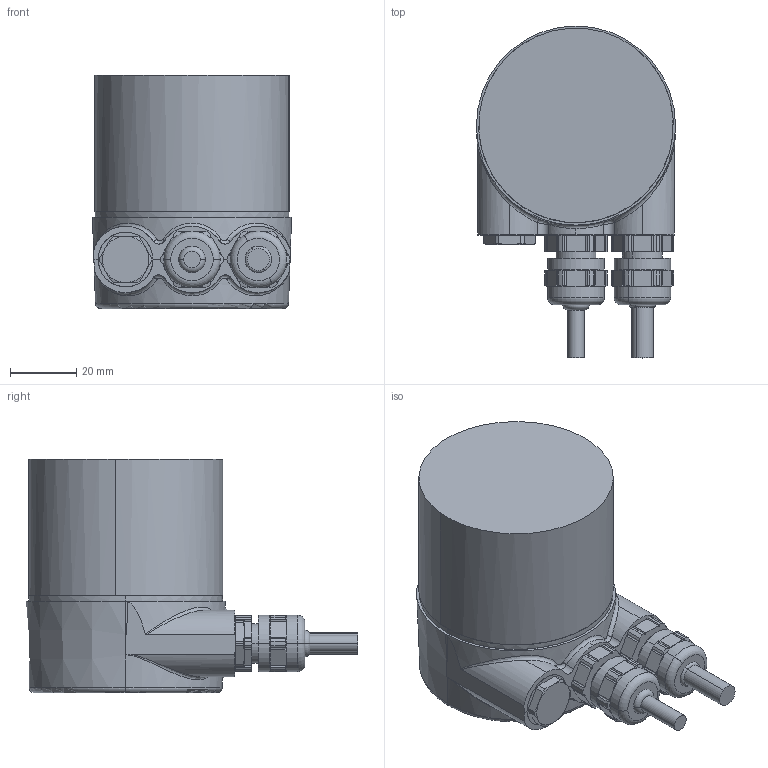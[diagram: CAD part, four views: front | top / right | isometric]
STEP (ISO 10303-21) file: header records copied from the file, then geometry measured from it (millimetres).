
FILE_DESCRIPTION (( 'STEP AP214' ), '1' );
FILE_NAME ('drawing-oc-5-ei-705-sws-eireir-y-cre-n.STEP', '2023-03-17T11:18:32', ( '' ), ( '' ), 'SwSTEP 2.0', 'SolidWorks 2022', '' );
FILE_SCHEMA (( 'AUTOMOTIVE_DESIGN' ));
Length unit declared in the file: millimetre
Products named in the file (1): drawing-oc-5-ei-705-sws-eireir-y-cre-n
Bounding box: 60 x 100 x 70.25 mm (x, y, z)
Volume: 207119.5 mm3; surface area: 50927.2 mm2
Topology: 14 solids, 16 shells, 1420 faces, 3789 edges, 2494 vertices
Faces by surface type: plane 723, bspline 328, cylinder 238, cone 105, torus 26
Entity records: 76489 total; most frequent: CARTESIAN_POINT 27671, ORIENTED_EDGE 7578, DIRECTION 5667, EDGE_CURVE 3789, VERTEX_POINT 2494, LINE 2239, VECTOR 2239, AXIS2_PLACEMENT_3D 1714
